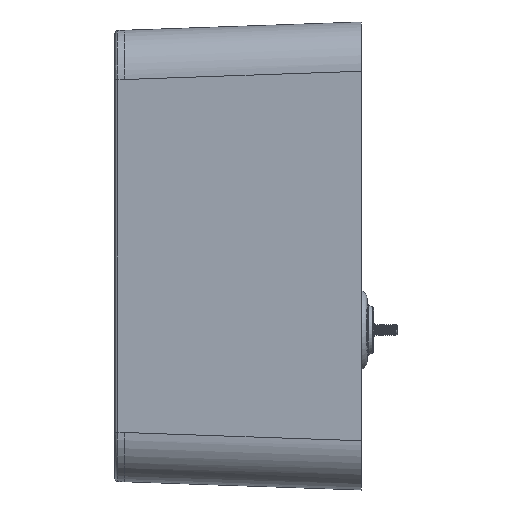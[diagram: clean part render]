
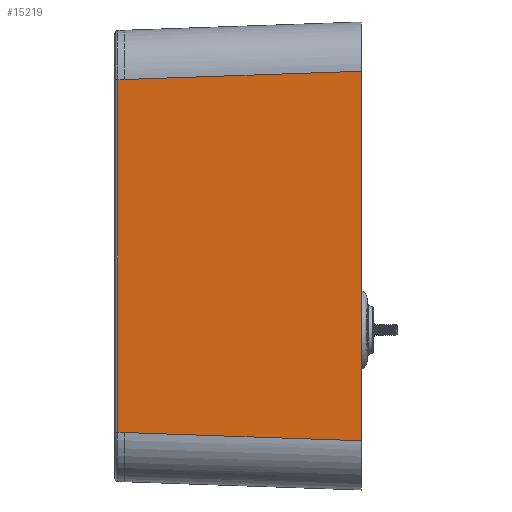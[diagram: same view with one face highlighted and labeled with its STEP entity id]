
A CAD part, left-side view. The second image highlights one B-rep face of the part: STEP entity #15219.
In plain terms, the highlighted planar face has unit normal (-0.999, 0.035, 0).
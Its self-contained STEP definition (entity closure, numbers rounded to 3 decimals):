
#127 = EDGE_CURVE ( 'NONE', #16029, #24639, #21646, .T. ) ;
#705 = EDGE_CURVE ( 'NONE', #13133, #16029, #1738, .T. ) ;
#1738 = LINE ( 'NONE', #17178, #16182 ) ;
#1844 = DIRECTION ( 'NONE',  ( -0.035, -0.999, 0. ) ) ;
#2338 = ORIENTED_EDGE ( 'NONE', *, *, #127, .T. ) ;
#3342 = VECTOR ( 'NONE', #13192, 1000. ) ;
#4180 = CARTESIAN_POINT ( 'NONE',  ( -419.162, -1.769, -190.593 ) ) ;
#5831 = VECTOR ( 'NONE', #7682, 1000. ) ;
#6326 = ORIENTED_EDGE ( 'NONE', *, *, #18505, .T. ) ;
#7346 = CARTESIAN_POINT ( 'NONE',  ( -410.579, 244., -182.01 ) ) ;
#7608 = LINE ( 'NONE', #11159, #3342 ) ;
#7682 = DIRECTION ( 'NONE',  ( 0., 0., -1. ) ) ;
#7796 = CARTESIAN_POINT ( 'NONE',  ( -410.331, 251.105, 181.762 ) ) ;
#8214 = CARTESIAN_POINT ( 'NONE',  ( -419.1, 0., -190.531 ) ) ;
#8506 = ORIENTED_EDGE ( 'NONE', *, *, #705, .T. ) ;
#8740 = CARTESIAN_POINT ( 'NONE',  ( -419.1, 0., 190.531 ) ) ;
#9184 = DIRECTION ( 'NONE',  ( -0.999, 0.035, 0. ) ) ;
#10671 = VECTOR ( 'NONE', #16133, 1000. ) ;
#11159 = CARTESIAN_POINT ( 'NONE',  ( -410.292, 252.231, 181.723 ) ) ;
#11454 = PLANE ( 'NONE',  #22859 ) ;
#11567 = VERTEX_POINT ( 'NONE', #7796 ) ;
#12200 = DIRECTION ( 'NONE',  ( 0., 0., -1. ) ) ;
#12393 = VERTEX_POINT ( 'NONE', #8740 ) ;
#12835 = ORIENTED_EDGE ( 'NONE', *, *, #14106, .T. ) ;
#13133 = VERTEX_POINT ( 'NONE', #20617 ) ;
#13192 = DIRECTION ( 'NONE',  ( 0.035, 0.999, -0.035 ) ) ;
#13734 = EDGE_CURVE ( 'NONE', #12393, #24639, #21717, .T. ) ;
#13814 = EDGE_CURVE ( 'NONE', #23976, #11567, #21963, .T. ) ;
#13970 = CARTESIAN_POINT ( 'NONE',  ( -410.331, 251.105, 232.43 ) ) ;
#14106 = EDGE_CURVE ( 'NONE', #11567, #13133, #18403, .T. ) ;
#14587 = EDGE_LOOP ( 'NONE', ( #22060, #6326, #15588, #12835, #8506, #2338 ) ) ;
#15219 = ADVANCED_FACE ( 'NONE', ( #21084 ), #11454, .T. ) ;
#15552 = CARTESIAN_POINT ( 'NONE',  ( -410.579, 244., 182.01 ) ) ;
#15588 = ORIENTED_EDGE ( 'NONE', *, *, #13814, .T. ) ;
#15812 = DIRECTION ( 'NONE',  ( -0.035, -0.999, -0.035 ) ) ;
#16029 = VERTEX_POINT ( 'NONE', #7346 ) ;
#16133 = DIRECTION ( 'NONE',  ( 0.035, 0.999, -0.035 ) ) ;
#16182 = VECTOR ( 'NONE', #23238, 1000. ) ;
#17178 = CARTESIAN_POINT ( 'NONE',  ( -410.641, 242.231, -182.072 ) ) ;
#17323 = VECTOR ( 'NONE', #15812, 1000. ) ;
#17931 = CARTESIAN_POINT ( 'NONE',  ( -410.292, 252.231, 181.723 ) ) ;
#18403 = LINE ( 'NONE', #13970, #21235 ) ;
#18505 = EDGE_CURVE ( 'NONE', #12393, #23976, #7608, .T. ) ;
#18814 = CARTESIAN_POINT ( 'NONE',  ( -410.23, 254., 232.43 ) ) ;
#20617 = CARTESIAN_POINT ( 'NONE',  ( -410.331, 251.105, -181.762 ) ) ;
#21084 = FACE_OUTER_BOUND ( 'NONE', #14587, .T. ) ;
#21235 = VECTOR ( 'NONE', #12200, 1000. ) ;
#21607 = CARTESIAN_POINT ( 'NONE',  ( -419.1, 0., 232.43 ) ) ;
#21646 = LINE ( 'NONE', #4180, #17323 ) ;
#21717 = LINE ( 'NONE', #21607, #5831 ) ;
#21963 = LINE ( 'NONE', #17931, #10671 ) ;
#22060 = ORIENTED_EDGE ( 'NONE', *, *, #13734, .F. ) ;
#22859 = AXIS2_PLACEMENT_3D ( 'NONE', #18814, #9184, #1844 ) ;
#23238 = DIRECTION ( 'NONE',  ( -0.035, -0.999, -0.035 ) ) ;
#23976 = VERTEX_POINT ( 'NONE', #15552 ) ;
#24639 = VERTEX_POINT ( 'NONE', #8214 ) ;
